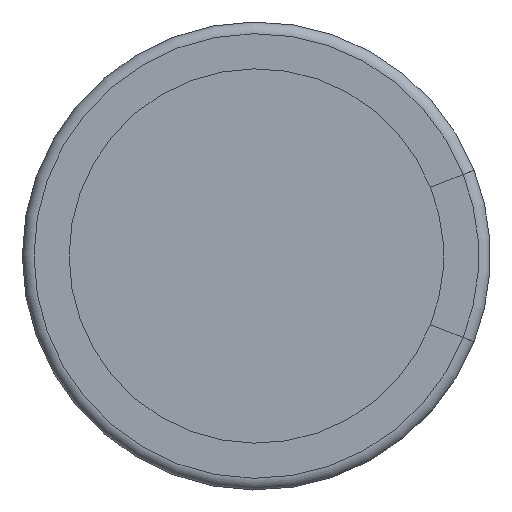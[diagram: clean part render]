
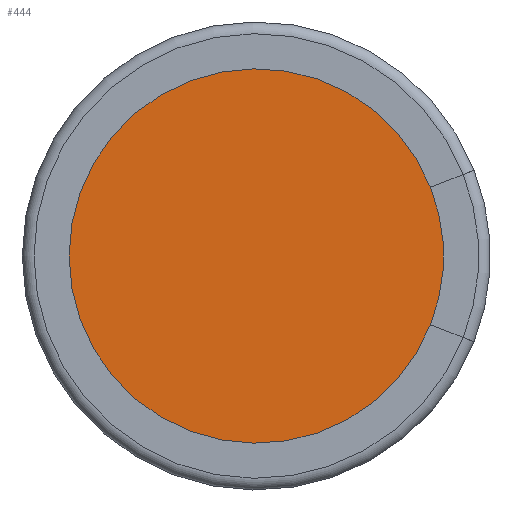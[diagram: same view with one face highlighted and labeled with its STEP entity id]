
A CAD part, front view. The second image highlights one B-rep face of the part: STEP entity #444.
In plain terms, the highlighted planar face has unit normal (0, -1, 0).
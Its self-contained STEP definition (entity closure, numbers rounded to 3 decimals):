
#444=ADVANCED_FACE('',(#541),#516,.T.);
#516=PLANE('',#1419);
#541=FACE_OUTER_BOUND('',#605,.T.);
#605=EDGE_LOOP('',(#687));
#687=ORIENTED_EDGE('',*,*,#1141,.T.);
#1027=VERTEX_POINT('',#2020);
#1141=EDGE_CURVE('',#1027,#1027,#1311,.T.);
#1311=CIRCLE('',#1418,1.9);
#1418=AXIS2_PLACEMENT_3D('',#2019,#1598,#1599);
#1419=AXIS2_PLACEMENT_3D('',#2021,#1600,#1601);
#1598=DIRECTION('',(0.,-1.,0.));
#1599=DIRECTION('',(0.,0.,-1.));
#1600=DIRECTION('',(0.,-1.,0.));
#1601=DIRECTION('',(0.,0.,-1.));
#2019=CARTESIAN_POINT('',(0.,0.1,0.));
#2020=CARTESIAN_POINT('',(0.,0.1,-1.9));
#2021=CARTESIAN_POINT('',(0.,0.1,0.));
